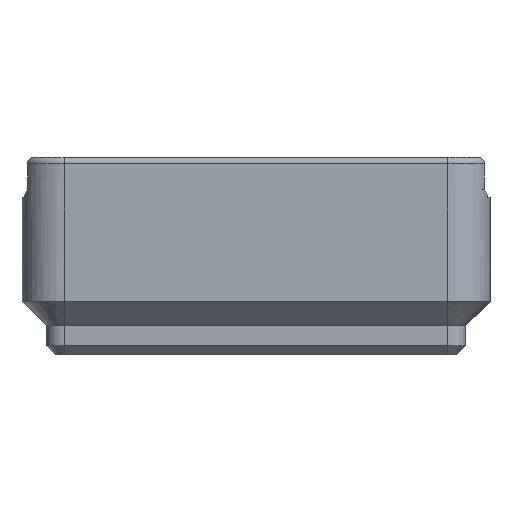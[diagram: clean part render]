
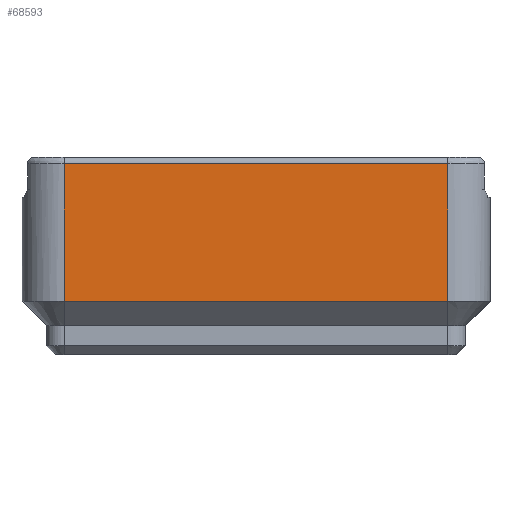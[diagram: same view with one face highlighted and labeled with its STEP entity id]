
A CAD part, left-side view. The second image highlights one B-rep face of the part: STEP entity #68593.
In plain terms, the highlighted planar face has unit normal (-1, 0, 0).
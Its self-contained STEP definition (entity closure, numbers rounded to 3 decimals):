
#1098 = CYLINDRICAL_SURFACE('',#1099,3.75);
#1099 = AXIS2_PLACEMENT_3D('',#1100,#1101,#1102);
#1100 = CARTESIAN_POINT('',(-38.,-17.,2.6));
#1101 = DIRECTION('',(0.,0.,-1.));
#1102 = DIRECTION('',(-1.,0.,0.));
#24606 = EDGE_CURVE('',#24607,#24609,#24611,.T.);
#24607 = VERTEX_POINT('',#24608);
#24608 = CARTESIAN_POINT('',(-41.75,-17.,4.75));
#24609 = VERTEX_POINT('',#24610);
#24610 = CARTESIAN_POINT('',(-41.75,-17.,16.951));
#24611 = SURFACE_CURVE('',#24612,(#24616,#24623),.PCURVE_S1.);
#24612 = LINE('',#24613,#24614);
#24613 = CARTESIAN_POINT('',(-41.75,-17.,4.75));
#24614 = VECTOR('',#24615,1.);
#24615 = DIRECTION('',(0.,0.,1.));
#24616 = PCURVE('',#1098,#24617);
#24617 = DEFINITIONAL_REPRESENTATION('',(#24618),#24622);
#24618 = LINE('',#24619,#24620);
#24619 = CARTESIAN_POINT('',(6.283,-2.15));
#24620 = VECTOR('',#24621,1.);
#24621 = DIRECTION('',(0.,-1.));
#24622 = ( GEOMETRIC_REPRESENTATION_CONTEXT(2) 
PARAMETRIC_REPRESENTATION_CONTEXT() REPRESENTATION_CONTEXT('2D SPACE',''
  ) );
#24623 = PCURVE('',#24624,#24629);
#24624 = PLANE('',#24625);
#24625 = AXIS2_PLACEMENT_3D('',#24626,#24627,#24628);
#24626 = CARTESIAN_POINT('',(-41.75,-17.,2.6));
#24627 = DIRECTION('',(-1.,0.,0.));
#24628 = DIRECTION('',(0.,1.,0.));
#24629 = DEFINITIONAL_REPRESENTATION('',(#24630),#24634);
#24630 = LINE('',#24631,#24632);
#24631 = CARTESIAN_POINT('',(0.,-2.15));
#24632 = VECTOR('',#24633,1.);
#24633 = DIRECTION('',(0.,-1.));
#24634 = ( GEOMETRIC_REPRESENTATION_CONTEXT(2) 
PARAMETRIC_REPRESENTATION_CONTEXT() REPRESENTATION_CONTEXT('2D SPACE',''
  ) );
#66460 = CYLINDRICAL_SURFACE('',#66461,3.75);
#66461 = AXIS2_PLACEMENT_3D('',#66462,#66463,#66464);
#66462 = CARTESIAN_POINT('',(-38.,17.,2.6));
#66463 = DIRECTION('',(0.,0.,-1.));
#66464 = DIRECTION('',(-1.,0.,0.));
#68593 = ADVANCED_FACE('',(#68594),#24624,.T.);
#68594 = FACE_BOUND('',#68595,.T.);
#68595 = EDGE_LOOP('',(#68596,#68597,#68625,#68648));
#68596 = ORIENTED_EDGE('',*,*,#24606,.T.);
#68597 = ORIENTED_EDGE('',*,*,#68598,.F.);
#68598 = EDGE_CURVE('',#68599,#24609,#68601,.T.);
#68599 = VERTEX_POINT('',#68600);
#68600 = CARTESIAN_POINT('',(-41.75,17.,16.951));
#68601 = SURFACE_CURVE('',#68602,(#68606,#68613),.PCURVE_S1.);
#68602 = LINE('',#68603,#68604);
#68603 = CARTESIAN_POINT('',(-41.75,17.,16.951));
#68604 = VECTOR('',#68605,1.);
#68605 = DIRECTION('',(-0.,-1.,-0.));
#68606 = PCURVE('',#24624,#68607);
#68607 = DEFINITIONAL_REPRESENTATION('',(#68608),#68612);
#68608 = LINE('',#68609,#68610);
#68609 = CARTESIAN_POINT('',(34.,-14.351));
#68610 = VECTOR('',#68611,1.);
#68611 = DIRECTION('',(-1.,0.));
#68612 = ( GEOMETRIC_REPRESENTATION_CONTEXT(2) 
PARAMETRIC_REPRESENTATION_CONTEXT() REPRESENTATION_CONTEXT('2D SPACE',''
  ) );
#68613 = PCURVE('',#68614,#68619);
#68614 = CYLINDRICAL_SURFACE('',#68615,0.6);
#68615 = AXIS2_PLACEMENT_3D('',#68616,#68617,#68618);
#68616 = CARTESIAN_POINT('',(-41.15,17.,16.951));
#68617 = DIRECTION('',(-0.,-1.,-0.));
#68618 = DIRECTION('',(-1.,0.,0.));
#68619 = DEFINITIONAL_REPRESENTATION('',(#68620),#68624);
#68620 = LINE('',#68621,#68622);
#68621 = CARTESIAN_POINT('',(-0.,0.));
#68622 = VECTOR('',#68623,1.);
#68623 = DIRECTION('',(-0.,1.));
#68624 = ( GEOMETRIC_REPRESENTATION_CONTEXT(2) 
PARAMETRIC_REPRESENTATION_CONTEXT() REPRESENTATION_CONTEXT('2D SPACE',''
  ) );
#68625 = ORIENTED_EDGE('',*,*,#68626,.T.);
#68626 = EDGE_CURVE('',#68599,#68627,#68629,.T.);
#68627 = VERTEX_POINT('',#68628);
#68628 = CARTESIAN_POINT('',(-41.75,17.,4.75));
#68629 = SURFACE_CURVE('',#68630,(#68634,#68641),.PCURVE_S1.);
#68630 = LINE('',#68631,#68632);
#68631 = CARTESIAN_POINT('',(-41.75,17.,18.4));
#68632 = VECTOR('',#68633,1.);
#68633 = DIRECTION('',(0.,0.,-1.));
#68634 = PCURVE('',#24624,#68635);
#68635 = DEFINITIONAL_REPRESENTATION('',(#68636),#68640);
#68636 = LINE('',#68637,#68638);
#68637 = CARTESIAN_POINT('',(34.,-15.8));
#68638 = VECTOR('',#68639,1.);
#68639 = DIRECTION('',(0.,1.));
#68640 = ( GEOMETRIC_REPRESENTATION_CONTEXT(2) 
PARAMETRIC_REPRESENTATION_CONTEXT() REPRESENTATION_CONTEXT('2D SPACE',''
  ) );
#68641 = PCURVE('',#66460,#68642);
#68642 = DEFINITIONAL_REPRESENTATION('',(#68643),#68647);
#68643 = LINE('',#68644,#68645);
#68644 = CARTESIAN_POINT('',(0.,-15.8));
#68645 = VECTOR('',#68646,1.);
#68646 = DIRECTION('',(0.,1.));
#68647 = ( GEOMETRIC_REPRESENTATION_CONTEXT(2) 
PARAMETRIC_REPRESENTATION_CONTEXT() REPRESENTATION_CONTEXT('2D SPACE',''
  ) );
#68648 = ORIENTED_EDGE('',*,*,#68649,.F.);
#68649 = EDGE_CURVE('',#24607,#68627,#68650,.T.);
#68650 = SURFACE_CURVE('',#68651,(#68655,#68662),.PCURVE_S1.);
#68651 = LINE('',#68652,#68653);
#68652 = CARTESIAN_POINT('',(-41.75,-17.,4.75));
#68653 = VECTOR('',#68654,1.);
#68654 = DIRECTION('',(0.,1.,0.));
#68655 = PCURVE('',#24624,#68656);
#68656 = DEFINITIONAL_REPRESENTATION('',(#68657),#68661);
#68657 = LINE('',#68658,#68659);
#68658 = CARTESIAN_POINT('',(0.,-2.15));
#68659 = VECTOR('',#68660,1.);
#68660 = DIRECTION('',(1.,0.));
#68661 = ( GEOMETRIC_REPRESENTATION_CONTEXT(2) 
PARAMETRIC_REPRESENTATION_CONTEXT() REPRESENTATION_CONTEXT('2D SPACE',''
  ) );
#68662 = PCURVE('',#68663,#68668);
#68663 = PLANE('',#68664);
#68664 = AXIS2_PLACEMENT_3D('',#68665,#68666,#68667);
#68665 = CARTESIAN_POINT('',(-40.675,-17.,3.675));
#68666 = DIRECTION('',(0.707,0.,0.707
    ));
#68667 = DIRECTION('',(0.,-1.,0.));
#68668 = DEFINITIONAL_REPRESENTATION('',(#68669),#68673);
#68669 = LINE('',#68670,#68671);
#68670 = CARTESIAN_POINT('',(-0.,-1.52));
#68671 = VECTOR('',#68672,1.);
#68672 = DIRECTION('',(-1.,0.));
#68673 = ( GEOMETRIC_REPRESENTATION_CONTEXT(2) 
PARAMETRIC_REPRESENTATION_CONTEXT() REPRESENTATION_CONTEXT('2D SPACE',''
  ) );
